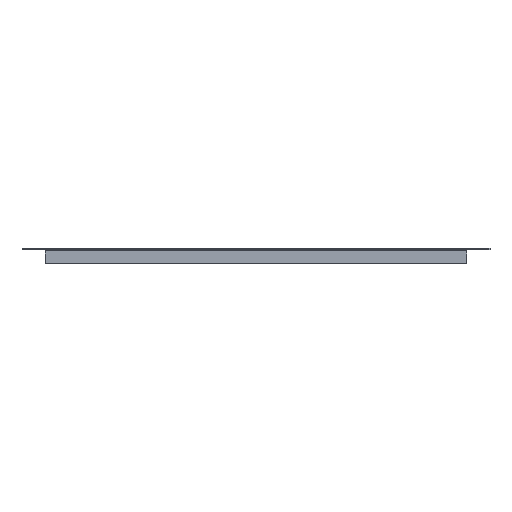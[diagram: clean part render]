
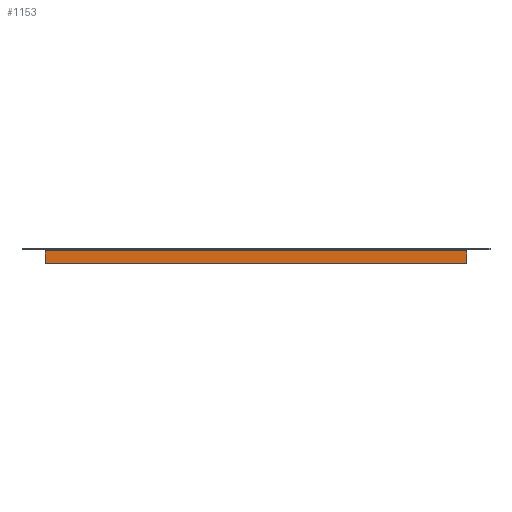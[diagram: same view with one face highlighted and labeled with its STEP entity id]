
A CAD part, front view. The second image highlights one B-rep face of the part: STEP entity #1153.
In plain terms, the highlighted planar face has unit normal (0, -1, 0).
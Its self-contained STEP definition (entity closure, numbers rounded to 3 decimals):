
#33 = FACE_OUTER_BOUND ( 'NONE', #633, .T. ) ;
#36 = AXIS2_PLACEMENT_3D ( 'NONE', #110, #111, #112 ) ;
#38 = VECTOR ( 'NONE', #160, 1000. ) ;
#44 = VECTOR ( 'NONE', #149, 1000. ) ;
#68 = VECTOR ( 'NONE', #964, 1000. ) ;
#93 = VECTOR ( 'NONE', #138, 1000. ) ;
#109 = PLANE ( 'NONE',  #36 ) ;
#110 = CARTESIAN_POINT ( 'NONE',  ( 209.5, -299.5, 0. ) ) ;
#111 = DIRECTION ( 'NONE',  ( 0., 1., 0. ) ) ;
#112 = DIRECTION ( 'NONE',  ( 0., 0., 1. ) ) ;
#136 = LINE ( 'NONE', #137, #93 ) ;
#137 = CARTESIAN_POINT ( 'NONE',  ( -209.5, -299.5, -13.8 ) ) ;
#138 = DIRECTION ( 'NONE',  ( 0., 0., 1. ) ) ;
#145 = LINE ( 'NONE', #146, #44 ) ;
#146 = CARTESIAN_POINT ( 'NONE',  ( 209.5, -299.5, -13.8 ) ) ;
#147 = LINE ( 'NONE', #148, #38 ) ;
#148 = CARTESIAN_POINT ( 'NONE',  ( 209.5, -299.5, 0. ) ) ;
#149 = DIRECTION ( 'NONE',  ( -1., 0., 0. ) ) ;
#160 = DIRECTION ( 'NONE',  ( 0., 0., -1. ) ) ;
#577 = VERTEX_POINT ( 'NONE', #907 ) ;
#580 = VERTEX_POINT ( 'NONE', #910 ) ;
#582 = VERTEX_POINT ( 'NONE', #912 ) ;
#583 = VERTEX_POINT ( 'NONE', #913 ) ;
#633 = EDGE_LOOP ( 'NONE', ( #688, #686, #685, #683 ) ) ;
#683 = ORIENTED_EDGE ( 'NONE', *, *, #1167, .F. ) ;
#685 = ORIENTED_EDGE ( 'NONE', *, *, #1164, .F. ) ;
#686 = ORIENTED_EDGE ( 'NONE', *, *, #1162, .F. ) ;
#688 = ORIENTED_EDGE ( 'NONE', *, *, #1135, .F. ) ;
#907 = CARTESIAN_POINT ( 'NONE',  ( 209.5, -299.5, -1.2 ) ) ;
#910 = CARTESIAN_POINT ( 'NONE',  ( -209.5, -299.5, -1.2 ) ) ;
#912 = CARTESIAN_POINT ( 'NONE',  ( 209.5, -299.5, -13.8 ) ) ;
#913 = CARTESIAN_POINT ( 'NONE',  ( -209.5, -299.5, -13.8 ) ) ;
#962 = LINE ( 'NONE', #963, #68 ) ;
#963 = CARTESIAN_POINT ( 'NONE',  ( 209.5, -299.5, -1.2 ) ) ;
#964 = DIRECTION ( 'NONE',  ( 1., 0., 0. ) ) ;
#1135 = EDGE_CURVE ( 'NONE', #580, #577, #962, .T. ) ;
#1153 = ADVANCED_FACE ( 'NONE', ( #33 ), #109, .F. ) ;
#1162 = EDGE_CURVE ( 'NONE', #583, #580, #136, .T. ) ;
#1164 = EDGE_CURVE ( 'NONE', #582, #583, #145, .T. ) ;
#1167 = EDGE_CURVE ( 'NONE', #577, #582, #147, .T. ) ;
